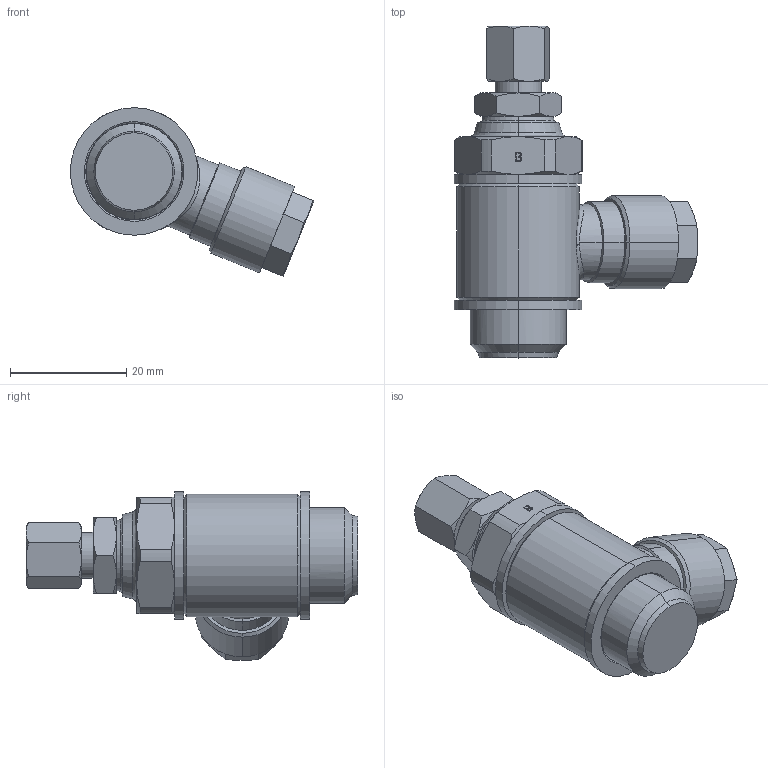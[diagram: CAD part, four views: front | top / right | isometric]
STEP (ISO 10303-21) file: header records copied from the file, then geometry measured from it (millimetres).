
FILE_DESCRIPTION (( 'STEP AP203' ), '1' );
FILE_NAME ('249892.STEP', '2016-08-10T09:06:33', ( '' ), ( '' ), 'SwSTEP 2.0', 'SolidWorks 2016', '' );
FILE_SCHEMA (( 'CONFIG_CONTROL_DESIGN' ));
Length unit declared in the file: millimetre
Products named in the file (1): 249892
Bounding box: 41.88 x 57 x 28.95 mm (x, y, z)
Volume: 17597.3 mm3; surface area: 5303.9 mm2
Topology: 1 solids, 1 shells, 181 faces, 447 edges, 278 vertices
Faces by surface type: plane 65, cone 62, cylinder 36, bspline 18
Entity records: 7392 total; most frequent: CARTESIAN_POINT 3191, ORIENTED_EDGE 894, DIRECTION 817, EDGE_CURVE 447, AXIS2_PLACEMENT_3D 340, VERTEX_POINT 278, EDGE_LOOP 203, ADVANCED_FACE 181
